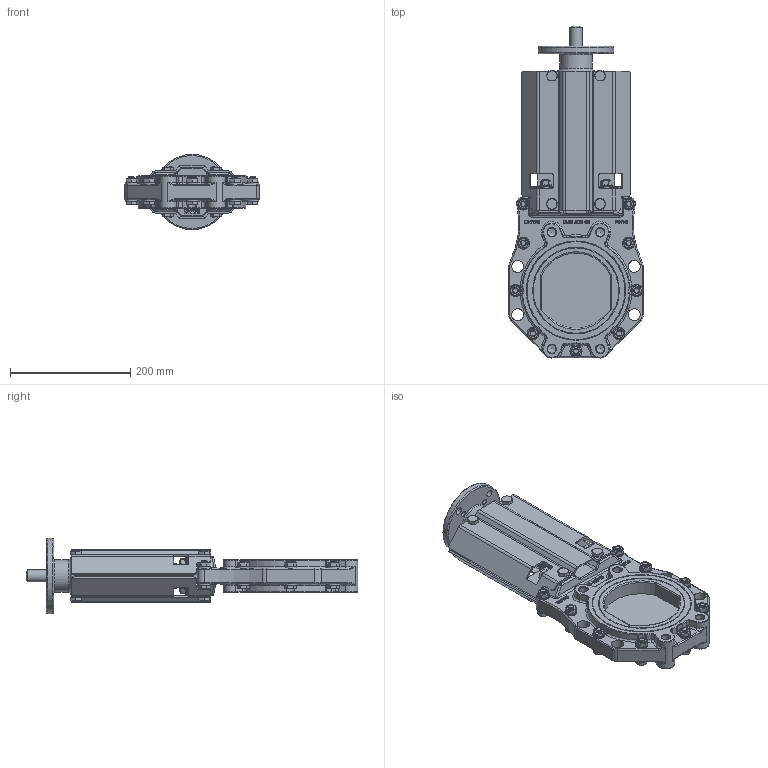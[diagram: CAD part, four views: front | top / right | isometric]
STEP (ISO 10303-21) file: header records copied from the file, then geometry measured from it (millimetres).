
FILE_DESCRIPTION(/* description */ (''),/* implementation_level */ '2;1');
FILE_NAME(/* name */ 'Rising stem knife gate valve with top flange DN125-10.stp',/* time_stamp */ '2025-04-21T17:08:52+08:00',/* author */ (''),/* organization */ (''),/* preprocessor_version */ 'ST-DEVELOPER v15',/* originating_system */ 'SIEMENS PLM Software NX 10.0',/* authorisation */ '');
FILE_SCHEMA (('AP203_CONFIGURATION_CONTROLLED_3D_DESIGN_OF_MECHANICAL_PARTS_AND_ASSEMBLIES_MIM_LF { 1 0 10303 403 2 1 2}'));
Products named in the file (1): Admi256412D81nv2
Bounding box: 224.01 x 552.01 x 125 mm (x, y, z)
Volume: 2467341.2 mm3; surface area: 506589.9 mm2
Topology: 1 solids, 23 shells, 2300 faces, 5604 edges, 3430 vertices
Faces by surface type: plane 901, cylinder 583, torus 212, bspline 196, cone 182, extrusion 170, sphere 56
Full cylindrical faces by diameter (mm): 1.7 x4, 5.2 x1, 8.5 x2, 9 x4, 9.188 x13, 10 x26, 10.5 x22, 11 x4, 12 x4, 13.8 x2, 13.835 x8, 14.5 x1, 15.4 x17, 16 x6, 20 x27, 25 x1, 42 x1, 54 x1, 125 x1
Entity records: 71635 total; most frequent: CARTESIAN_POINT 20805, ORIENTED_EDGE 10552, DIRECTION 9636, EDGE_CURVE 5276, AXIS2_PLACEMENT_3D 3600, VERTEX_POINT 3381, EDGE_LOOP 2759, VECTOR 2436
